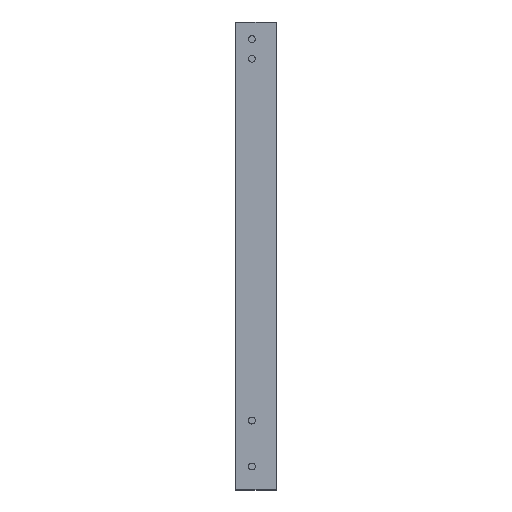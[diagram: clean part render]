
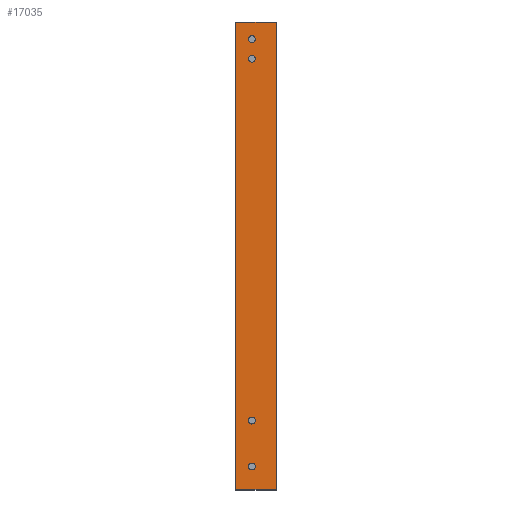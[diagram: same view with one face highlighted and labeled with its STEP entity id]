
A CAD part, top view. The second image highlights one B-rep face of the part: STEP entity #17035.
In plain terms, the highlighted planar face has unit normal (0, 0, 1).
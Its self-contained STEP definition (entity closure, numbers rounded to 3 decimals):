
#5976=CARTESIAN_POINT('',(217.5,-143.5,222.5));
#5977=DIRECTION('',(0.,0.,-1.));
#5978=DIRECTION('',(1.,0.,0.));
#5979=AXIS2_PLACEMENT_3D('',#5976,#5977,#5978);
#5981=CARTESIAN_POINT('',(217.5,-143.5,222.5));
#5982=DIRECTION('',(0.,0.,-1.));
#5983=DIRECTION('',(-1.,0.,0.));
#5984=AXIS2_PLACEMENT_3D('',#5981,#5982,#5983);
#5986=CARTESIAN_POINT('',(217.5,-183.5,222.5));
#5987=DIRECTION('',(0.,0.,-1.));
#5988=DIRECTION('',(1.,0.,0.));
#5989=AXIS2_PLACEMENT_3D('',#5986,#5987,#5988);
#5991=CARTESIAN_POINT('',(217.5,-183.5,222.5));
#5992=DIRECTION('',(0.,0.,-1.));
#5993=DIRECTION('',(-1.,0.,0.));
#5994=AXIS2_PLACEMENT_3D('',#5991,#5992,#5993);
#5996=CARTESIAN_POINT('',(217.5,188.5,222.5));
#5997=DIRECTION('',(0.,0.,-1.));
#5998=DIRECTION('',(1.,0.,0.));
#5999=AXIS2_PLACEMENT_3D('',#5996,#5997,#5998);
#6001=CARTESIAN_POINT('',(217.5,188.5,222.5));
#6002=DIRECTION('',(0.,0.,-1.));
#6003=DIRECTION('',(-1.,0.,0.));
#6004=AXIS2_PLACEMENT_3D('',#6001,#6002,#6003);
#6006=CARTESIAN_POINT('',(217.5,171.5,222.5));
#6007=DIRECTION('',(0.,0.,-1.));
#6008=DIRECTION('',(1.,0.,0.));
#6009=AXIS2_PLACEMENT_3D('',#6006,#6007,#6008);
#6011=CARTESIAN_POINT('',(217.5,171.5,222.5));
#6012=DIRECTION('',(0.,0.,-1.));
#6013=DIRECTION('',(-1.,0.,0.));
#6014=AXIS2_PLACEMENT_3D('',#6011,#6012,#6013);
#6016=DIRECTION('',(0.,-1.,0.));
#6017=VECTOR('',#6016,407.);
#6018=CARTESIAN_POINT('',(203.5,203.5,222.5));
#6019=LINE('',#6018,#6017);
#6020=DIRECTION('',(-1.,0.,0.));
#6021=VECTOR('',#6020,35.);
#6022=CARTESIAN_POINT('',(238.5,203.5,222.5));
#6023=LINE('',#6022,#6021);
#6024=DIRECTION('',(0.,1.,0.));
#6025=VECTOR('',#6024,407.);
#6026=CARTESIAN_POINT('',(238.5,-203.5,222.5));
#6027=LINE('',#6026,#6025);
#6028=DIRECTION('',(1.,0.,0.));
#6029=VECTOR('',#6028,35.);
#6030=CARTESIAN_POINT('',(203.5,-203.5,222.5));
#6031=LINE('',#6030,#6029);
#7075=CARTESIAN_POINT('',(203.5,-203.5,222.5));
#7076=VERTEX_POINT('',#7075);
#7077=CARTESIAN_POINT('',(203.5,203.5,222.5));
#7078=VERTEX_POINT('',#7077);
#7079=CARTESIAN_POINT('',(238.5,203.5,222.5));
#7080=VERTEX_POINT('',#7079);
#7081=CARTESIAN_POINT('',(238.5,-203.5,222.5));
#7082=VERTEX_POINT('',#7081);
#7936=CARTESIAN_POINT('',(220.5,-143.5,222.5));
#7938=VERTEX_POINT('',#7936);
#7940=CARTESIAN_POINT('',(214.5,-143.5,222.5));
#7942=VERTEX_POINT('',#7940);
#7944=CARTESIAN_POINT('',(220.5,-183.5,222.5));
#7946=VERTEX_POINT('',#7944);
#7948=CARTESIAN_POINT('',(214.5,-183.5,222.5));
#7950=VERTEX_POINT('',#7948);
#7952=CARTESIAN_POINT('',(220.5,188.5,222.5));
#7954=VERTEX_POINT('',#7952);
#7956=CARTESIAN_POINT('',(214.5,188.5,222.5));
#7958=VERTEX_POINT('',#7956);
#7960=CARTESIAN_POINT('',(220.5,171.5,222.5));
#7962=VERTEX_POINT('',#7960);
#7964=CARTESIAN_POINT('',(214.5,171.5,222.5));
#7966=VERTEX_POINT('',#7964);
#17000=CARTESIAN_POINT('',(223.5,0.,222.5));
#17001=DIRECTION('',(0.,0.,-1.));
#17002=DIRECTION('',(0.,-1.,0.));
#17003=AXIS2_PLACEMENT_3D('',#17000,#17001,#17002);
#17004=PLANE('',#17003);
#17005=ORIENTED_EDGE('',*,*,#12722,.F.);
#17006=ORIENTED_EDGE('',*,*,#14720,.F.);
#17007=ORIENTED_EDGE('',*,*,#14953,.F.);
#17008=ORIENTED_EDGE('',*,*,#16816,.F.);
#17009=EDGE_LOOP('',(#17005,#17006,#17007,#17008));
#17010=FACE_OUTER_BOUND('',#17009,.F.);
#17012=ORIENTED_EDGE('',*,*,#17011,.F.);
#17014=ORIENTED_EDGE('',*,*,#17013,.F.);
#17015=EDGE_LOOP('',(#17012,#17014));
#17016=FACE_BOUND('',#17015,.F.);
#17018=ORIENTED_EDGE('',*,*,#17017,.F.);
#17020=ORIENTED_EDGE('',*,*,#17019,.F.);
#17021=EDGE_LOOP('',(#17018,#17020));
#17022=FACE_BOUND('',#17021,.F.);
#17024=ORIENTED_EDGE('',*,*,#17023,.F.);
#17026=ORIENTED_EDGE('',*,*,#17025,.F.);
#17027=EDGE_LOOP('',(#17024,#17026));
#17028=FACE_BOUND('',#17027,.F.);
#17030=ORIENTED_EDGE('',*,*,#17029,.F.);
#17032=ORIENTED_EDGE('',*,*,#17031,.F.);
#17033=EDGE_LOOP('',(#17030,#17032));
#17034=FACE_BOUND('',#17033,.F.);
#17035=ADVANCED_FACE('',(#17010,#17016,#17022,#17028,#17034),#17004,.F.);
#5980=CIRCLE('',#5979,3.);
#5985=CIRCLE('',#5984,3.);
#5990=CIRCLE('',#5989,3.);
#5995=CIRCLE('',#5994,3.);
#6000=CIRCLE('',#5999,3.);
#6005=CIRCLE('',#6004,3.);
#6010=CIRCLE('',#6009,3.);
#6015=CIRCLE('',#6014,3.);
#12722=EDGE_CURVE('',#7078,#7076,#6019,.T.);
#14720=EDGE_CURVE('',#7080,#7078,#6023,.T.);
#14953=EDGE_CURVE('',#7082,#7080,#6027,.T.);
#16816=EDGE_CURVE('',#7076,#7082,#6031,.T.);
#17011=EDGE_CURVE('',#7946,#7950,#5990,.T.);
#17013=EDGE_CURVE('',#7950,#7946,#5995,.T.);
#17017=EDGE_CURVE('',#7954,#7958,#6000,.T.);
#17019=EDGE_CURVE('',#7958,#7954,#6005,.T.);
#17023=EDGE_CURVE('',#7962,#7966,#6010,.T.);
#17025=EDGE_CURVE('',#7966,#7962,#6015,.T.);
#17029=EDGE_CURVE('',#7938,#7942,#5980,.T.);
#17031=EDGE_CURVE('',#7942,#7938,#5985,.T.);
